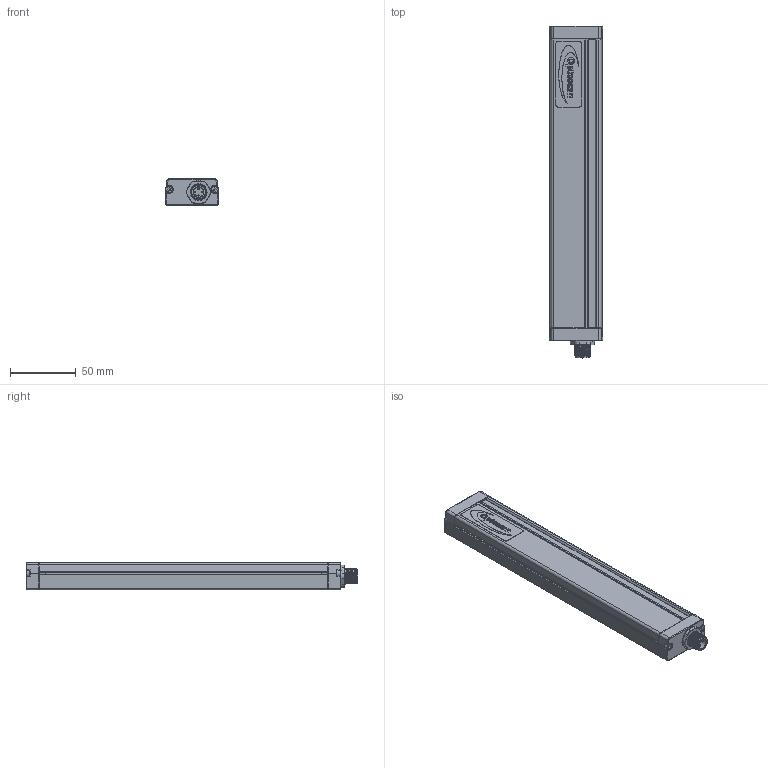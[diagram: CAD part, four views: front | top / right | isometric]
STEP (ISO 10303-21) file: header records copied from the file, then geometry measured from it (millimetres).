
FILE_DESCRIPTION(/* description */ (''),/* implementation_level */ '2;1');
FILE_NAME(/* name */ 'C:\Users\Andrea\SynologyDrive\Optoscan\Libreria Componenti\00 - Barriere\Barriera sorgente\Barriera RX\Argo_220_RX.stp',/* time_stamp */ '2022-06-30T15:46:39+02:00',/* author */ ('Andrea'),/* organization */ (''),/* preprocessor_version */ 'ST-DEVELOPER v18.1',/* originating_system */ 'Autodesk Inventor 2022',/* authorisation */ '');
FILE_SCHEMA (('AUTOMOTIVE_DESIGN { 1 0 10303 214 3 1 1 }'));
Length unit declared in the file: millimetre
Products named in the file (1): Argo_220_RX
Bounding box: 40.5 x 252.8 x 20.75 mm (x, y, z)
Volume: 54004.4 mm3; surface area: 67701.3 mm2
Topology: 1 solids, 2 shells, 753 faces, 2017 edges, 1278 vertices
Faces by surface type: plane 336, cylinder 216, bspline 115, torus 72, cone 8, sphere 6
Full cylindrical faces by diameter (mm): 1 x12, 1.2 x4, 2.459 x4, 2.5 x4, 3 x4, 3.5 x4, 5.5 x4, 8 x1, 10 x1, 10.5 x2, 11.75 x8, 12 x1, 12.3 x3, 14.5 x1, 16.7 x1, 17.5 x1
Entity records: 30151 total; most frequent: CARTESIAN_POINT 11037, ORIENTED_EDGE 4018, DIRECTION 3500, EDGE_CURVE 2009, VERTEX_POINT 1278, AXIS2_PLACEMENT_3D 1219, LINE 1062, VECTOR 1062
